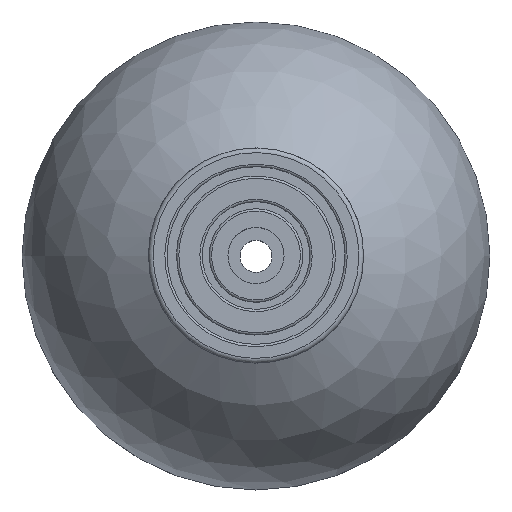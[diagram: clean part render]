
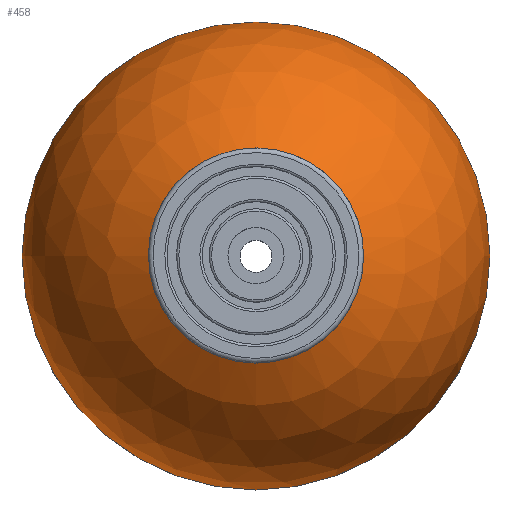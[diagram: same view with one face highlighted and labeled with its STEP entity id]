
A CAD part, top view. The second image highlights one B-rep face of the part: STEP entity #458.
In plain terms, the highlighted spherical face has radius 25 mm.
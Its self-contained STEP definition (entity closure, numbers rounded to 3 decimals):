
#458=ADVANCED_FACE('',(#5064,#5066),#5068,.T.);
#5064=FACE_OUTER_BOUND('',#5065,.T.);
#5065=EDGE_LOOP('',(#9852));
#5066=FACE_OUTER_BOUND('',#5067,.T.);
#5067=EDGE_LOOP('',(#9853));
#5068=SPHERICAL_SURFACE('',#5069,25.);
#5069=AXIS2_PLACEMENT_3D('',#5070,#5071,#5072);
#5070=CARTESIAN_POINT('',(0.,0.,0.));
#5071=DIRECTION('',(0.,0.,-1.));
#5072=DIRECTION('',(-1.,0.,0.));
#9852=ORIENTED_EDGE('',*,*,#12291,.T.);
#9853=ORIENTED_EDGE('',*,*,#12292,.F.);
#12291=EDGE_CURVE('',#13544,#13544,#13545,.T.);
#12292=EDGE_CURVE('',#13546,#13546,#13547,.T.);
#13544=VERTEX_POINT('',#15502);
#13545=CIRCLE('',#15503,11.5);
#13546=VERTEX_POINT('',#15507);
#13547=CIRCLE('',#15508,25.);
#15502=CARTESIAN_POINT('',(-11.5,0.,22.198));
#15503=AXIS2_PLACEMENT_3D('',#15504,#15505,#15506);
#15504=CARTESIAN_POINT('',(0.,0.,22.198));
#15505=DIRECTION('',(0.,0.,-1.));
#15506=DIRECTION('',(-1.,0.,0.));
#15507=CARTESIAN_POINT('',(-25.,0.,0.));
#15508=AXIS2_PLACEMENT_3D('',#15509,#15510,#15511);
#15509=CARTESIAN_POINT('',(0.,0.,0.));
#15510=DIRECTION('',(0.,0.,-1.));
#15511=DIRECTION('',(-1.,0.,0.));
